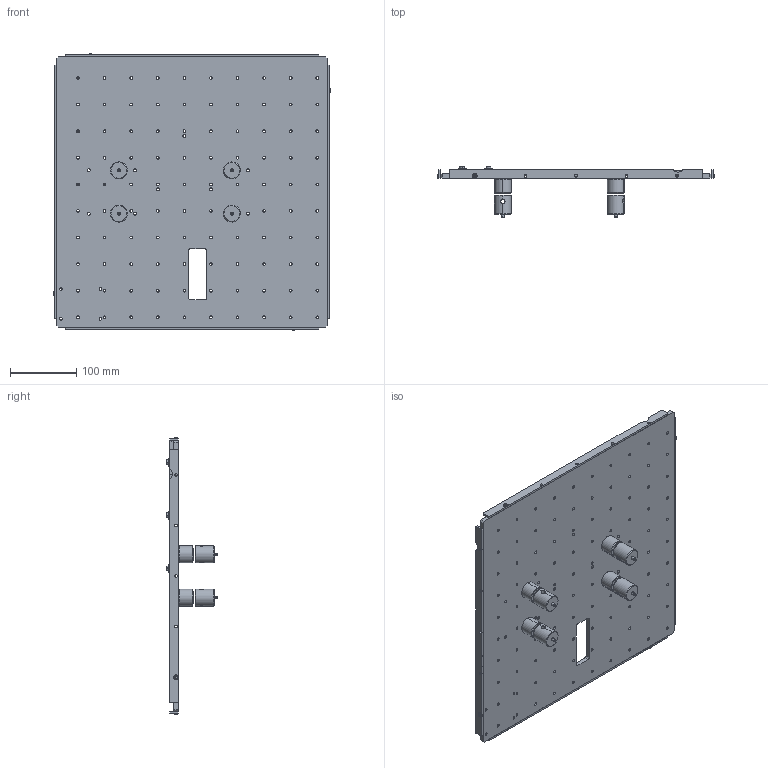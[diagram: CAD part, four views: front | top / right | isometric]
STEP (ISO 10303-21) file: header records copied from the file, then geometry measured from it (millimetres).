
FILE_DESCRIPTION (( 'STEP AP214' ), '1' );
FILE_NAME ('58CE3F20-D325-472C-BFA0-31011642CF9A.STEP', '2023-01-27T11:38:45', ( '' ), ( '' ), 'SwSTEP 2.0', 'SolidWorks 2022', '' );
FILE_SCHEMA (( 'AUTOMOTIVE_DESIGN' ));
Length unit declared in the file: inch
Products named in the file (1): 58CE3F20-D325-472C-BFA0-31011642CF9A
Bounding box: 417.15 x 77.73 x 417.15 mm (x, y, z)
Surface area: 425994.2 mm2 (no closed solid volume)
Topology: 0 solids, 50 shells, 723 faces, 2066 edges, 1367 vertices
Faces by surface type: cylinder 399, plane 223, cone 75, torus 26
Entity records: 25160 total; most frequent: CARTESIAN_POINT 5013, DIRECTION 4481, ORIENTED_EDGE 3711, EDGE_CURVE 2058, AXIS2_PLACEMENT_3D 1785, VERTEX_POINT 1367, EDGE_LOOP 1073, CIRCLE 1061
